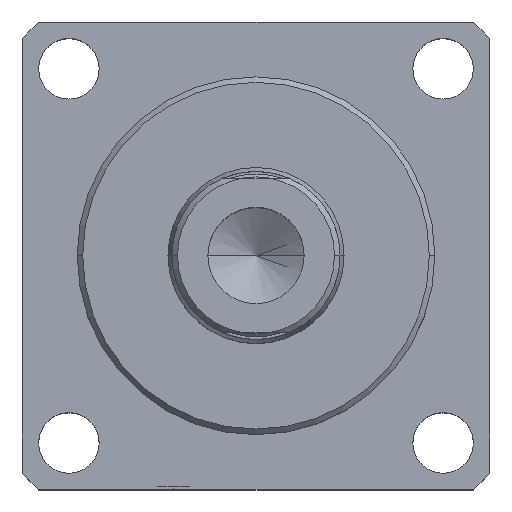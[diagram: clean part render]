
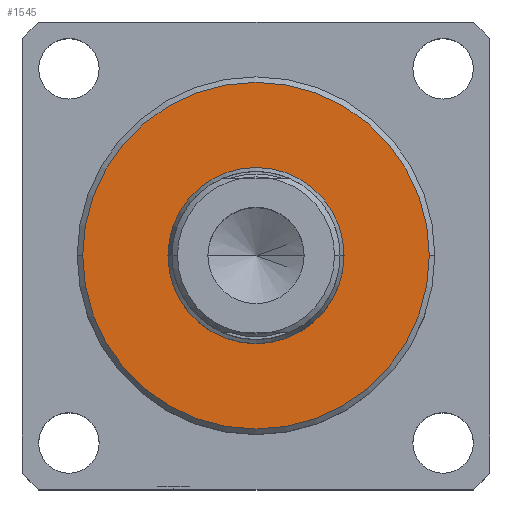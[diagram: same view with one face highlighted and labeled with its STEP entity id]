
A CAD part, top view. The second image highlights one B-rep face of the part: STEP entity #1545.
In plain terms, the highlighted planar face has unit normal (0, 0, 1).
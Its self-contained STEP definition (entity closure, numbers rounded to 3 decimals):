
#28 = DIRECTION ( 'NONE',  ( 1., 0., 0. ) ) ;
#60 = FACE_OUTER_BOUND ( 'NONE', #1006, .T. ) ;
#84 = DIRECTION ( 'NONE',  ( 0., 0., 1. ) ) ;
#99 = CARTESIAN_POINT ( 'NONE',  ( 0., 0., 103. ) ) ;
#173 = CARTESIAN_POINT ( 'NONE',  ( 0., 0., 103. ) ) ;
#191 = ORIENTED_EDGE ( 'NONE', *, *, #1694, .F. ) ;
#272 = EDGE_CURVE ( 'NONE', #1168, #992, #548, .T. ) ;
#293 = EDGE_LOOP ( 'NONE', ( #191, #403 ) ) ;
#315 = ORIENTED_EDGE ( 'NONE', *, *, #1467, .T. ) ;
#339 = VERTEX_POINT ( 'NONE', #1319 ) ;
#403 = ORIENTED_EDGE ( 'NONE', *, *, #272, .F. ) ;
#514 = CIRCLE ( 'NONE', #1022, 31.5 ) ;
#535 = EDGE_CURVE ( 'NONE', #1030, #339, #1037, .T. ) ;
#548 = CIRCLE ( 'NONE', #983, 16. ) ;
#629 = DIRECTION ( 'NONE',  ( 1., 0., 0. ) ) ;
#804 = PLANE ( 'NONE',  #1525 ) ;
#845 = CARTESIAN_POINT ( 'NONE',  ( 0., 0., 103. ) ) ;
#887 = FACE_BOUND ( 'NONE', #293, .T. ) ;
#951 = DIRECTION ( 'NONE',  ( 0., 0., 1. ) ) ;
#961 = DIRECTION ( 'NONE',  ( 1., 0., 0. ) ) ;
#983 = AXIS2_PLACEMENT_3D ( 'NONE', #99, #1031, #1953 ) ;
#992 = VERTEX_POINT ( 'NONE', #1194 ) ;
#1000 = DIRECTION ( 'NONE',  ( 1., 0., 0. ) ) ;
#1006 = EDGE_LOOP ( 'NONE', ( #1598, #315 ) ) ;
#1016 = CARTESIAN_POINT ( 'NONE',  ( 0., 0., 103. ) ) ;
#1022 = AXIS2_PLACEMENT_3D ( 'NONE', #1016, #84, #629 ) ;
#1030 = VERTEX_POINT ( 'NONE', #1978 ) ;
#1031 = DIRECTION ( 'NONE',  ( 0., 0., 1. ) ) ;
#1037 = CIRCLE ( 'NONE', #1977, 31.5 ) ;
#1168 = VERTEX_POINT ( 'NONE', #1535 ) ;
#1194 = CARTESIAN_POINT ( 'NONE',  ( -16., 0., 103. ) ) ;
#1281 = CIRCLE ( 'NONE', #1735, 16. ) ;
#1319 = CARTESIAN_POINT ( 'NONE',  ( 31.5, 0., 103. ) ) ;
#1467 = EDGE_CURVE ( 'NONE', #339, #1030, #514, .T. ) ;
#1525 = AXIS2_PLACEMENT_3D ( 'NONE', #1722, #1878, #961 ) ;
#1535 = CARTESIAN_POINT ( 'NONE',  ( 16., 0., 103. ) ) ;
#1545 = ADVANCED_FACE ( 'NONE', ( #60, #887 ), #804, .T. ) ;
#1598 = ORIENTED_EDGE ( 'NONE', *, *, #535, .T. ) ;
#1694 = EDGE_CURVE ( 'NONE', #992, #1168, #1281, .T. ) ;
#1722 = CARTESIAN_POINT ( 'NONE',  ( 0., 0., 103. ) ) ;
#1735 = AXIS2_PLACEMENT_3D ( 'NONE', #845, #1917, #1000 ) ;
#1878 = DIRECTION ( 'NONE',  ( 0., 0., 1. ) ) ;
#1917 = DIRECTION ( 'NONE',  ( 0., 0., 1. ) ) ;
#1953 = DIRECTION ( 'NONE',  ( 1., 0., 0. ) ) ;
#1977 = AXIS2_PLACEMENT_3D ( 'NONE', #173, #951, #28 ) ;
#1978 = CARTESIAN_POINT ( 'NONE',  ( -31.5, 0., 103. ) ) ;
